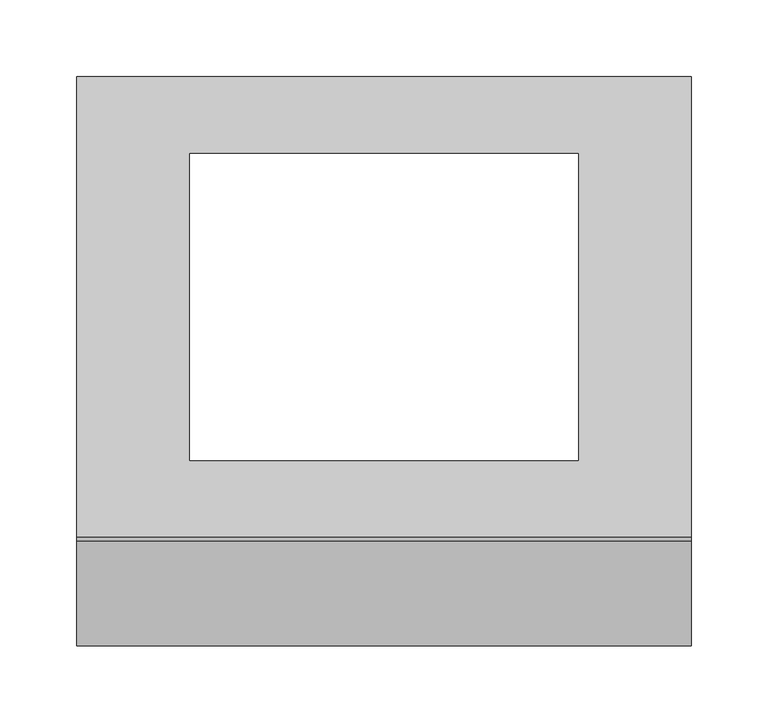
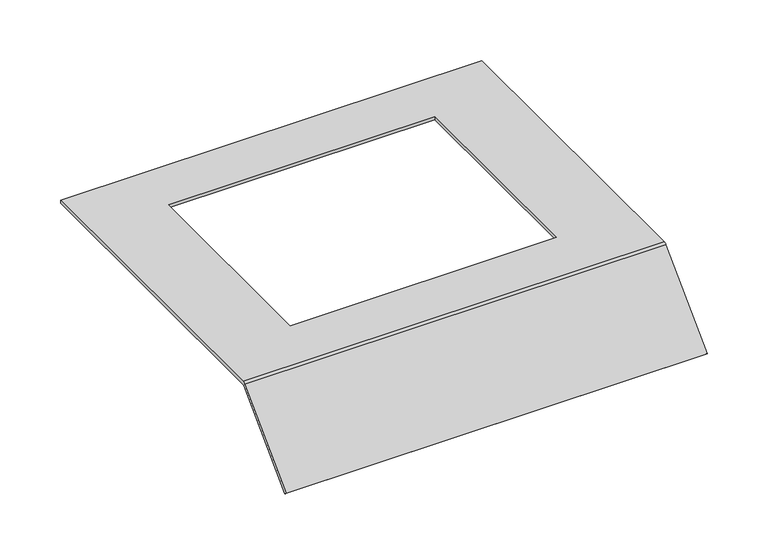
"""IFC4 building model written with IfcOpenShell, lengths in millimetres: proxy geometry, Electrical_Installation_Hager_Covers-With-Installation-Opening-E09 : Electrical_Installation_Hager_Covers-With-Installation-Opening-E09."""

from ifc_helpers import new_model, si_unit, frame, origin, place, context, project, spatial, polyline, circle_curve, source, transform, mapped, element, save
from ifc_brep_helpers import plane_surface, cylinder_surface, revolved_surface, advanced_brep


def electrical_fixtures_ba14407c(model_context):
    return source(origin(), model_context, "Body", "AdvancedBrep", [
        advanced_brep(
        [(0.0, 150.0, 40.5), (0.0, 150.0, 37.5), (0.0, -149.8229541, 37.5), (0.0, -150.8322972, 37.0819164), (0.0, -218.712807, -30.7985934), (0.0, -220.8341273, -28.6772731), (0.0, -152.8206472, 39.336207), (0.0, -150.0110025, 40.5), (400.0, 150.0, 40.5), (400.0, -150.0110025, 40.5), (400.0, -152.8206472, 39.336207), (400.0, -220.8341273, -28.6772731), (400.0, -218.712807, -30.7985934), (400.0, -150.8322972, 37.0819164), (400.0, -149.8229541, 37.5), (400.0, 150.0, 37.5), (326.5, 100.0, 37.5), (73.5, 100.0, 37.5), (73.5, -100.0, 37.5), (326.5, -100.0, 37.5), (73.5, 100.0, 40.5), (326.5, 100.0, 40.5), (326.5, -100.0, 40.5), (73.5, -100.0, 40.5)],
        [
            (0, 1),
            (1, 2),
            (2, 3, circle_curve(frame((0.0, -149.8229541, 36.0725733), z_axis=(1.0, 0.0, 0.0), x_axis=(0.0, 1.0, 0.0)), 1.4274267)),
            (3, 4),
            (4, 5),
            (5, 6),
            (6, 7, circle_curve(frame((0.0, -150.0110025, 36.5265623), z_axis=(-1.0, 0.0, 0.0), x_axis=(0.0, 1.0, 0.0)), 3.9734377)),
            (7, 0),
            (8, 9),
            (9, 10, circle_curve(frame((400.0, -150.0110025, 36.5265623), z_axis=(1.0, 0.0, 0.0), x_axis=(0.0, 1.0, 0.0)), 3.9734377)),
            (10, 11),
            (11, 12),
            (12, 13),
            (13, 14, circle_curve(frame((400.0, -149.8229541, 36.0725733), z_axis=(-1.0, 0.0, 0.0), x_axis=(0.0, 1.0, 0.0)), 1.4274267)),
            (14, 15),
            (15, 8),
            (0, 8),
            (15, 1),
            (14, 2),
            (16, 17),
            (17, 18),
            (18, 19),
            (19, 16),
            (13, 3),
            (12, 4),
            (11, 5),
            (10, 6),
            (9, 7),
            (20, 21),
            (21, 22),
            (22, 23),
            (23, 20),
            (16, 21),
            (20, 17),
            (23, 18),
            (22, 19),
        ],
        [
            plane_surface(frame((0.0, 0.3269864, 15.0), z_axis=(-1.0, 0.0, 0.0), x_axis=(0.0, 0.0, 1.0))),
            plane_surface(frame((400.0, 0.3269864, 15.0), z_axis=(1.0, 0.0, 0.0), x_axis=(0.0, 0.0, 1.0))),
            plane_surface(frame((0.0, 150.0, 40.5), z_axis=(0.0, 1.0, 0.0), x_axis=(1.0, 0.0, 0.0))),
            plane_surface(frame((0.0, 150.0, 37.5), z_axis=(0.0, 0.0, -1.0), x_axis=(1.0, 0.0, 0.0))),
            revolved_surface(polyline([(400.0, -148.3955274, 36.0725733), (0.0, -148.3955274, 36.0725733)]), (0.0, -149.8229541, 36.0725733), (1.0, 0.0, 0.0)),
            plane_surface(frame((0.0, -150.8322972, 37.0819164), z_axis=(0.0, 0.707106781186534, -0.7071067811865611), x_axis=(1.0, 0.0, 0.0))),
            plane_surface(frame((0.0, -218.712807, -30.7985934), z_axis=(0.0, -0.7071067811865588, -0.7071067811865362), x_axis=(1.0, 0.0, 0.0))),
            plane_surface(frame((0.0, -220.8341273, -28.6772731), z_axis=(0.0, -0.707106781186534, 0.707106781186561), x_axis=(1.0, 0.0, 0.0))),
            cylinder_surface(frame((0.0, -150.0110025, 36.5265623), z_axis=(-1.0, 0.0, 0.0), x_axis=(0.0, 1.0, 0.0)), 3.9734377),
            plane_surface(frame((0.0, -150.0110025, 40.5), z_axis=(0.0, 0.0, 1.0), x_axis=(1.0, 0.0, 0.0))),
            plane_surface(frame((326.5, 100.0, 250.0), z_axis=(0.0, -1.0, 0.0), x_axis=(0.0, 0.0, -1.0))),
            plane_surface(frame((73.5, 100.0, 250.0), z_axis=(1.0, 0.0, 0.0), x_axis=(0.0, 0.0, -1.0))),
            plane_surface(frame((73.5, -100.0, 250.0), z_axis=(0.0, 1.0, 0.0), x_axis=(0.0, 0.0, -1.0))),
            plane_surface(frame((326.5, -100.0, 250.0), z_axis=(-1.0, 0.0, 0.0), x_axis=(0.0, 0.0, -1.0))),
        ],
        [
            (0, [[1, 2, 3, 4, 5, 6, 7, 8]]),
            (1, [[9, 10, 11, 12, 13, 14, 15, 16]]),
            (2, [[-1, 17, -16, 18]]),
            (3, [[-2, -18, -15, 19], [20, 21, 22, 23]]),
            (4, [[-3, -19, -14, 24]]),
            (5, [[-4, -24, -13, 25]]),
            (6, [[-5, -25, -12, 26]]),
            (7, [[-6, -26, -11, 27]]),
            (8, [[-7, -27, -10, 28]]),
            (9, [[-8, -28, -9, -17], [29, 30, 31, 32]]),
            (10, [[33, -29, 34, -20]]),
            (11, [[-34, -32, 35, -21]]),
            (12, [[-35, -31, 36, -22]]),
            (13, [[-33, -23, -36, -30]]),
        ],
    ),
    ])


if __name__ == "__main__":
    model = new_model("IFC4")
    model_context = context("Model", 3, world=origin())
    ifc_project = project(units=[si_unit("LENGTHUNIT", "METRE", prefix="MILLI")], contexts=[model_context])
    site = spatial("IfcSite", under=ifc_project)
    building = spatial("IfcBuilding", under=site)
    placement = place(None, origin())
    electrical_fixtures_shape = electrical_fixtures_ba14407c(model_context)
    element("IfcBuildingElementProxy", 1, Name="Electrical_Installation_Hager_Covers-With-Installation-Opening-E09 : Electrical_Installation_Hager_Covers-With-Installation-Opening-E09", ObjectType="Electrical_Installation_Hager_Covers-With-Installation-Opening-E09 : Electrical_Installation_Hager_Covers-With-Installation-Opening-E09", at=placement, inside=building, context=model_context, shape_type="MappedRepresentation", body=[
        mapped(electrical_fixtures_shape, transform((0.0, 0.0, 0.0), x_axis=(1.0, 0.0, 0.0), y_axis=(0.0, 1.0, 0.0), z_axis=(0.0, 0.0, 1.0))),
    ])
    save(model, "model.ifc")
